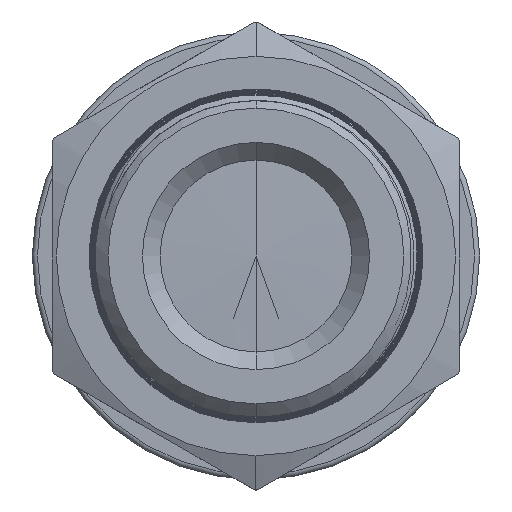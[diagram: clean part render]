
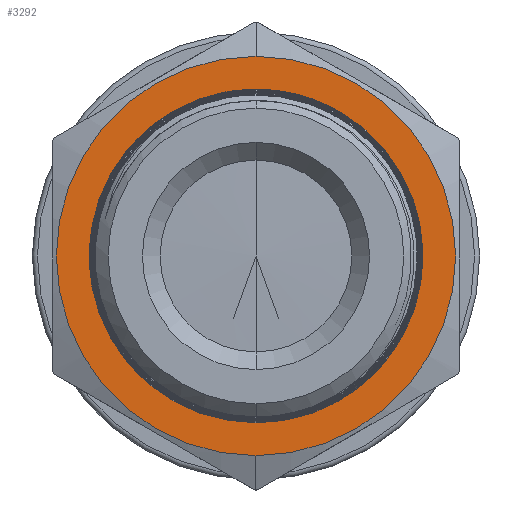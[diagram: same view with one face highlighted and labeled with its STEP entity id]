
A CAD part, front view. The second image highlights one B-rep face of the part: STEP entity #3292.
In plain terms, the highlighted planar face has unit normal (0, -1, 0).
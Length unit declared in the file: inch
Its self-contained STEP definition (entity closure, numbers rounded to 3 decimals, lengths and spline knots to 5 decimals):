
#54 = DIRECTION ( 'NONE',  ( 0., 1., 0. ) ) ;
#177 = AXIS2_PLACEMENT_3D ( 'NONE', #3563, #9312, #4389 ) ;
#318 = CIRCLE ( 'NONE', #3231, 0.79 ) ;
#393 = VERTEX_POINT ( 'NONE', #10045 ) ;
#631 = VERTEX_POINT ( 'NONE', #1910 ) ;
#1059 = CIRCLE ( 'NONE', #7637, 0.79 ) ;
#1072 = CIRCLE ( 'NONE', #10457, 0.66 ) ;
#1076 = PLANE ( 'NONE',  #177 ) ;
#1087 = VERTEX_POINT ( 'NONE', #5363 ) ;
#1222 = CIRCLE ( 'NONE', #6544, 0.66 ) ;
#1856 = ORIENTED_EDGE ( 'NONE', *, *, #9010, .F. ) ;
#1910 = CARTESIAN_POINT ( 'NONE',  ( 0., 0.80372, -0.79 ) ) ;
#2136 = CARTESIAN_POINT ( 'NONE',  ( 0., 0.80372, 0. ) ) ;
#2486 = EDGE_LOOP ( 'NONE', ( #8658, #9089 ) ) ;
#2852 = CARTESIAN_POINT ( 'NONE',  ( 0., 0.80372, 0. ) ) ;
#2876 = FACE_BOUND ( 'NONE', #2486, .T. ) ;
#2975 = DIRECTION ( 'NONE',  ( 0., 0., 1. ) ) ;
#3077 = DIRECTION ( 'NONE',  ( 0., 1., 0. ) ) ;
#3231 = AXIS2_PLACEMENT_3D ( 'NONE', #5007, #54, #5829 ) ;
#3292 = ADVANCED_FACE ( 'NONE', ( #7243, #2876 ), #1076, .F. ) ;
#3563 = CARTESIAN_POINT ( 'NONE',  ( 0., 0.80372, -0.79 ) ) ;
#3674 = DIRECTION ( 'NONE',  ( 0., 0., 1. ) ) ;
#4389 = DIRECTION ( 'NONE',  ( 0., 0., 1. ) ) ;
#4558 = EDGE_CURVE ( 'NONE', #631, #393, #318, .T. ) ;
#4807 = EDGE_CURVE ( 'NONE', #10150, #1087, #1222, .T. ) ;
#5007 = CARTESIAN_POINT ( 'NONE',  ( 0., 0.80372, 0. ) ) ;
#5363 = CARTESIAN_POINT ( 'NONE',  ( 0., 0.80372, -0.66 ) ) ;
#5829 = DIRECTION ( 'NONE',  ( 0., 0., 1. ) ) ;
#6544 = AXIS2_PLACEMENT_3D ( 'NONE', #2136, #7890, #2975 ) ;
#6864 = ORIENTED_EDGE ( 'NONE', *, *, #4558, .F. ) ;
#7073 = EDGE_LOOP ( 'NONE', ( #1856, #6864 ) ) ;
#7243 = FACE_OUTER_BOUND ( 'NONE', #7073, .T. ) ;
#7637 = AXIS2_PLACEMENT_3D ( 'NONE', #7992, #3077, #8812 ) ;
#7699 = EDGE_CURVE ( 'NONE', #1087, #10150, #1072, .T. ) ;
#7890 = DIRECTION ( 'NONE',  ( 0., 1., 0. ) ) ;
#7992 = CARTESIAN_POINT ( 'NONE',  ( 0., 0.80372, 0. ) ) ;
#8589 = DIRECTION ( 'NONE',  ( 0., 1., 0. ) ) ;
#8658 = ORIENTED_EDGE ( 'NONE', *, *, #4807, .T. ) ;
#8679 = CARTESIAN_POINT ( 'NONE',  ( 0., 0.80372, 0.66 ) ) ;
#8812 = DIRECTION ( 'NONE',  ( 0., 0., 1. ) ) ;
#9010 = EDGE_CURVE ( 'NONE', #393, #631, #1059, .T. ) ;
#9089 = ORIENTED_EDGE ( 'NONE', *, *, #7699, .T. ) ;
#9312 = DIRECTION ( 'NONE',  ( 0., 1., 0. ) ) ;
#10045 = CARTESIAN_POINT ( 'NONE',  ( 0., 0.80372, 0.79 ) ) ;
#10150 = VERTEX_POINT ( 'NONE', #8679 ) ;
#10457 = AXIS2_PLACEMENT_3D ( 'NONE', #2852, #8589, #3674 ) ;
